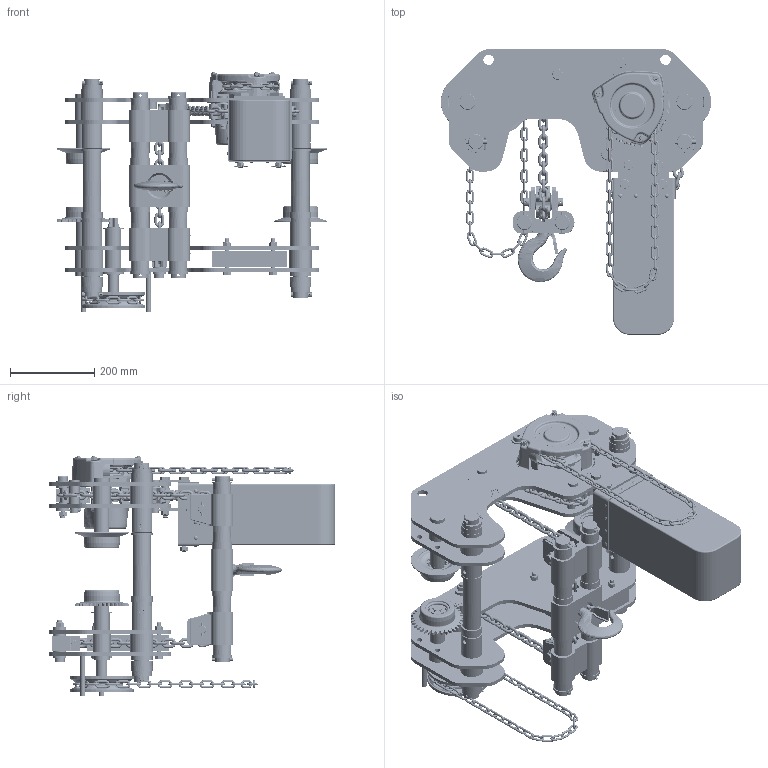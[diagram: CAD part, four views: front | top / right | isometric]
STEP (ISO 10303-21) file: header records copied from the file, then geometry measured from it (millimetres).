
FILE_DESCRIPTION (( 'STEP AP214' ), '1' );
FILE_NAME ('SHB020.STEP', '2026-08-12T17:42:42', ( '' ), ( '' ), 'SwSTEP 2.0', 'SolidWorks 2026', '' );
FILE_SCHEMA (( 'AUTOMOTIVE_DESIGN' ));
Length unit declared in the file: millimetre
Products named in the file (125): T1GA020-91042_T1GA020-91042; rivet 07_din_DIN 674-4x6-St-A-1.5; M3102015; C3BA005-91722; 72CG020-11493H_With Counterweight for container Option; T3GA020-11011; HAND CHAIN FOR CB015; 9016102_9014105; 72CG020-91032H; M3103015; 72CG020-91433H; 72CG020-91022H; 9091250_9091250; 80054; 9148154_ISO 8748-2.5x10-St; 74SH020-95831 2 ton for BOM; T7GA030-91162; T3GA020-11021; C3BA015-91621; T6PD0059865; C2BA200-90741_C2BA200-90741; LCCF015 FOR SHB020; C3BA005-91731; 72CG020-91061; E4YS010-98312; MSF117020; Rivet Label_PEM TFH-632-4 ZI--N; 74SH020-95811H; LCCF015; 72CG020-91112H; M2049020_JIS B 1170 Small hexagon slotted nut Class 1 Low type Medium M10 --N; MSF116030N; 72BD0209301; C3BA015-91042; J1WB011-10120_J1WB011-10120; 72BD020-92011_B18.2.3.6M - Heavy hex bolt M12 x 1.75 x 120 --30N; 72CG010-98051; J1BA1-1007526_J1BA1-1007526; M3101015; J1PW01-030022_J1PW01-030022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
Assembly tree (494 placements, depth 5):
  SHB020
    74SH020-05102H_With Counterweight and less Bottom Block
      72CG020-11493H_With Counterweight for container Option
        72CG020-51123H_72CG020-51123H
          72CG020-91012H
          72CG020-91042H  x2
          72CG020-91032H  x2
          72CG020-91051
          72CG020-91022H
          72CG020-91061  x2
          72CG020-91093  x2
        J1SS000-00026_J1SS000-00026  x2
        9012522_9012522  x2
        72CG020-91342
        T5GA010-91231
        J1WB011-10120_J1WB011-10120
        72CG020-91262
        J1BA1-1007526_J1BA1-1007526  x4
        T1GA020-91042_T1GA020-91042  x2
        T3GA020-11011
          T3GA020-91011
          J1GR020-06304
          J1SR000-00052_J1SR000-00052
        T3GA020-11021
          T3GA020-91021
          J1SR000-00052_J1SR000-00052
          J1GR020-06304
        J1SS000-00020_J1SS000-00020  x2
        C2BA200-90741_C2BA200-90741  x4
        J1PW01-030022_J1PW01-030022
        J1NL001-10120_J1NL001-10120
        9016102_9014105
        9016202_9016202
        P1VP0639107-NEW_B18.2.3.2M - Formed hex screw, M8 x 1.25 x 50 --22WS
        9148154_ISO 8748-2.5x10-St
        9012517_9012517  x3
      72CG020-11502H_72CG020-11502H
        72CG020-51132H_72CG020-51132H
          72CG020-91072H
          72CG020-91042H  x2
          72CG020-91032H  x2
          72CG020-91082H
          72CG020-91112H  x4
          72CG020-91102  x2
        72CG020-91433H  x2
        J1PS11-050032_J1PS11-050032  x2
        T3GA020-11021  x2
          T3GA020-91021
          J1SR000-00052_J1SR000-00052
          J1GR020-06304
        T1GA020-91042_T1GA020-91042  x2
        J1SS000-00020_J1SS000-00020  x2
        72CG020-91452
        E5SE020L-10511_E5SE020L-10511  x2
          E5SE020L-90511
          E2YL020-90611
        9016102_9014105
        9016202_9016202
        9012517_9012517  x3
      74SH020-15671
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Bounding box: 641.95 x 678 x 570.85 mm (x, y, z)
Volume: 14626998.9 mm3; surface area: 4195902.7 mm2
Topology: 505 solids, 505 shells, 20342 faces, 53984 edges, 34260 vertices
Faces by surface type: plane 6824, cylinder 4951, torus 3474, bspline 3453, cone 1374, sphere 266
Entity records: 535456 total; most frequent: CARTESIAN_POINT 216815, ORIENTED_EDGE 58850, DIRECTION 47408, EDGE_CURVE 29425, VERTEX_POINT 18955, AXIS2_PLACEMENT_3D 15875, VECTOR 15658, LINE 15658
